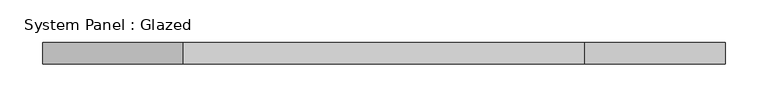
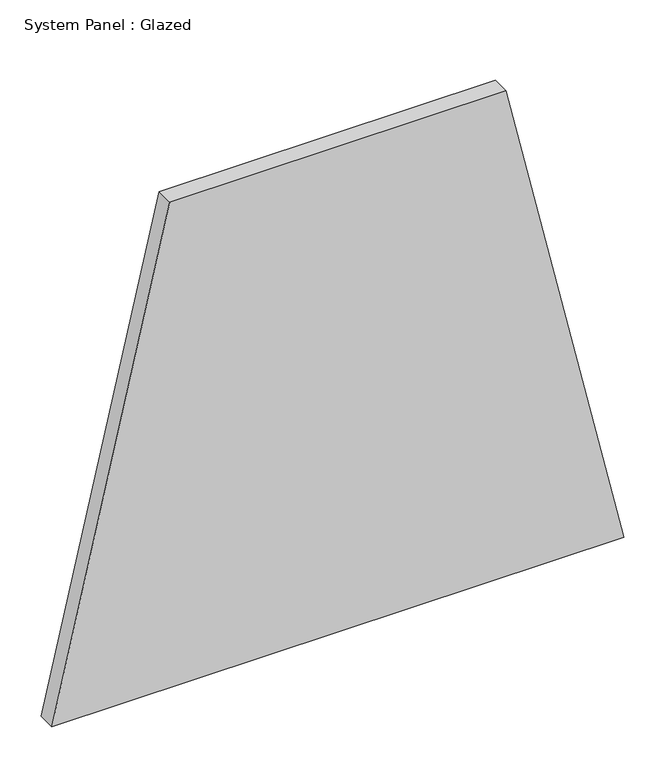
"""IFC4 building model written with IfcOpenShell, lengths in millimetres: plate geometry, System Panel : Glazed."""

from ifc_helpers import new_model, si_unit, frame, origin, place, context, project, spatial, polyline, outline, extrude, source, transform, mapped, element, save


def system_panel_glazed_c38a1470(model_context):
    return source(origin(), model_context, "Body", "SweptSolid", [
        extrude(outline(polyline([(0.0, -399.9402922), (0.0, 399.9402922), (717.2744852, 235.2478414), (717.2744852, -235.2478414), (0.0, -399.9402922)])), frame((0.0, -44.45, 0.0), z_axis=(0.0, 1.0, 0.0), x_axis=(0.0, 0.0, 1.0)), (0.0, 0.0, 1.0), 25.4),
    ])


if __name__ == "__main__":
    model = new_model("IFC4")
    model_context = context("Model", 3, world=origin())
    ifc_project = project(units=[si_unit("LENGTHUNIT", "METRE", prefix="MILLI")], contexts=[model_context])
    site = spatial("IfcSite", under=ifc_project)
    building = spatial("IfcBuilding", under=site)
    placement = place(None, origin())
    system_panel_glazed_shape = system_panel_glazed_c38a1470(model_context)
    element("IfcPlate", 1, ObjectType="System Panel : Glazed", at=placement, inside=building, context=model_context, shape_type="MappedRepresentation", body=[
        mapped(system_panel_glazed_shape, transform((0.0, 0.0, 0.0), x_axis=(1.0, 0.0, 0.0), y_axis=(0.0, 1.0, 0.0), z_axis=(0.0, 0.0, 1.0))),
    ])
    save(model, "model.ifc")
